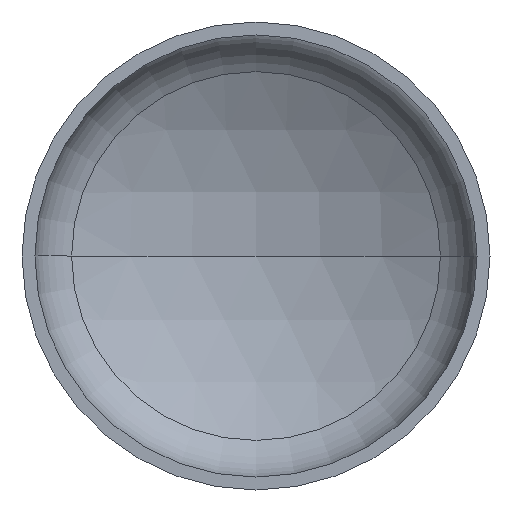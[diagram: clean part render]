
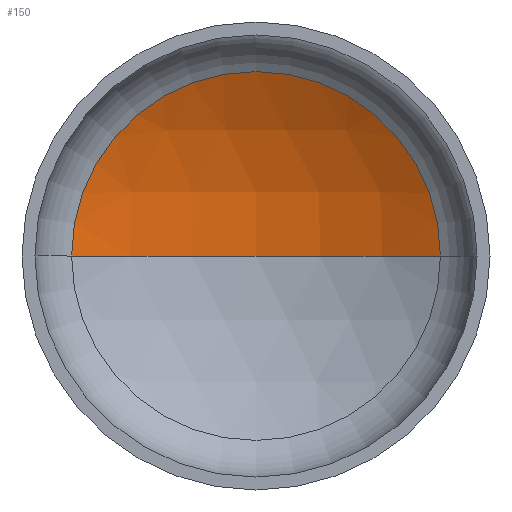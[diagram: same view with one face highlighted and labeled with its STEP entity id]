
A CAD part, front view. The second image highlights one B-rep face of the part: STEP entity #150.
In plain terms, the highlighted spherical face has radius 2720 mm.
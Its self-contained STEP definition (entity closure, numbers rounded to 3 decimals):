
#4 = DIRECTION ( 'NONE',  ( 0., 0., -1. ) ) ;
#7 = EDGE_CURVE ( 'NONE', #11, #168, #371, .T. ) ;
#9 = VERTEX_POINT ( 'NONE', #179 ) ;
#11 = VERTEX_POINT ( 'NONE', #306 ) ;
#13 = CIRCLE ( 'NONE', #15, 2720. ) ;
#15 = AXIS2_PLACEMENT_3D ( 'NONE', #149, #170, #161 ) ;
#21 = CARTESIAN_POINT ( 'NONE',  ( -1339.554, 556.919, 0. ) ) ;
#75 = EDGE_CURVE ( 'NONE', #9, #11, #263, .T. ) ;
#98 = EDGE_CURVE ( 'NONE', #9, #168, #13, .T. ) ;
#102 = SPHERICAL_SURFACE ( 'NONE', #158, 2720. ) ;
#112 = DIRECTION ( 'NONE',  ( -1., 0., 0. ) ) ;
#149 = CARTESIAN_POINT ( 'NONE',  ( 0., -1810.357, 0. ) ) ;
#150 = ADVANCED_FACE ( 'NONE', ( #180 ), #102, .F. ) ;
#158 = AXIS2_PLACEMENT_3D ( 'NONE', #227, #244, #112 ) ;
#161 = DIRECTION ( 'NONE',  ( 1., 0., 0. ) ) ;
#168 = VERTEX_POINT ( 'NONE', #21 ) ;
#170 = DIRECTION ( 'NONE',  ( 0., 0., 1. ) ) ;
#179 = CARTESIAN_POINT ( 'NONE',  ( 0., 909.643, 0. ) ) ;
#180 = FACE_OUTER_BOUND ( 'NONE', #243, .T. ) ;
#225 = CARTESIAN_POINT ( 'NONE',  ( 0., -1810.357, 0. ) ) ;
#227 = CARTESIAN_POINT ( 'NONE',  ( 0., -1810.357, 0. ) ) ;
#243 = EDGE_LOOP ( 'NONE', ( #265, #340, #291 ) ) ;
#244 = DIRECTION ( 'NONE',  ( 0., 0., -1. ) ) ;
#245 = AXIS2_PLACEMENT_3D ( 'NONE', #313, #311, #308 ) ;
#263 = CIRCLE ( 'NONE', #398, 2720. ) ;
#265 = ORIENTED_EDGE ( 'NONE', *, *, #98, .F. ) ;
#291 = ORIENTED_EDGE ( 'NONE', *, *, #7, .T. ) ;
#306 = CARTESIAN_POINT ( 'NONE',  ( 1339.554, 556.919, 0. ) ) ;
#308 = DIRECTION ( 'NONE',  ( 1., 0., 0. ) ) ;
#311 = DIRECTION ( 'NONE',  ( 0., -1., 0. ) ) ;
#312 = DIRECTION ( 'NONE',  ( -1., 0., 0. ) ) ;
#313 = CARTESIAN_POINT ( 'NONE',  ( 0., 556.919, 0. ) ) ;
#340 = ORIENTED_EDGE ( 'NONE', *, *, #75, .T. ) ;
#371 = CIRCLE ( 'NONE', #245, 1339.554 ) ;
#398 = AXIS2_PLACEMENT_3D ( 'NONE', #225, #4, #312 ) ;
